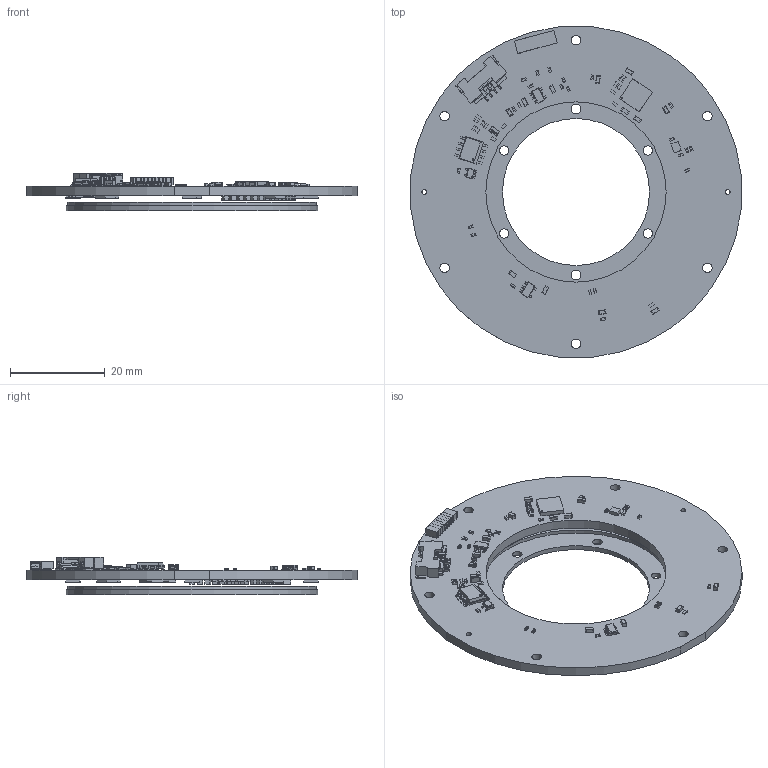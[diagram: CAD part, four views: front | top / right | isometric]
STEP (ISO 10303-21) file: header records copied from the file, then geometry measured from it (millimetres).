
FILE_DESCRIPTION(/* description */ (''),/* implementation_level */ '2;1');
FILE_NAME(/* name */ 'EAS-052.stp',/* time_stamp */ '2025-10-31T18:07:33+08:00',/* author */ (''),/* organization */ (''),/* preprocessor_version */ 'ST-DEVELOPER v15',/* originating_system */ 'SIEMENS PLM Software NX 8.5',/* authorisation */ '');
FILE_SCHEMA (('AUTOMOTIVE_DESIGN { 1 0 10303 214 3 1 1 1 }'));
Products named in the file (1): LeiX2DEC82A2z8gg
Bounding box: 69.6 x 69.6 x 7.81 mm (x, y, z)
Volume: 7752.9 mm3; surface area: 12738.3 mm2
Topology: 283 solids, 283 shells, 5209 faces, 13156 edges, 8314 vertices
Faces by surface type: plane 3943, cylinder 1014, sphere 248, torus 4
Full cylindrical faces by diameter (mm): 1 x2, 2 x12, 31 x1, 38 x1, 40.5 x1, 52.5 x1, 53 x1
Entity records: 159056 total; most frequent: CARTESIAN_POINT 26477, ORIENTED_EDGE 25806, DIRECTION 25355, EDGE_CURVE 12903, LINE 10855, VECTOR 10855, VERTEX_POINT 8308, AXIS2_PLACEMENT_3D 7250
